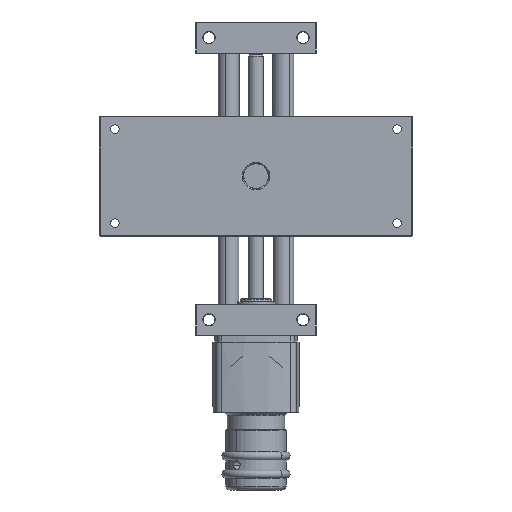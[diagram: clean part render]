
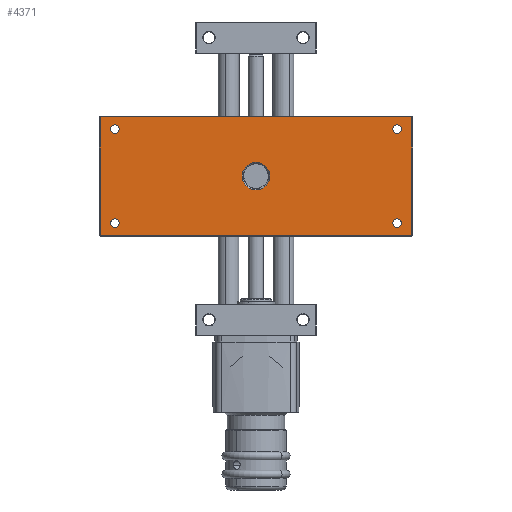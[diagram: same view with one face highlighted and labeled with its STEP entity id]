
A CAD part, front view. The second image highlights one B-rep face of the part: STEP entity #4371.
In plain terms, the highlighted planar face has unit normal (0, -1, 0).
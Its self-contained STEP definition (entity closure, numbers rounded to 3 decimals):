
#111 = VERTEX_POINT ( 'NONE', #5121 ) ;
#539 = AXIS2_PLACEMENT_3D ( 'NONE', #8699, #23527, #10780 ) ;
#660 = DIRECTION ( 'NONE',  ( 0., 0., 1. ) ) ;
#707 = ORIENTED_EDGE ( 'NONE', *, *, #18384, .T. ) ;
#712 = DIRECTION ( 'NONE',  ( 0., 0., 1. ) ) ;
#1249 = VECTOR ( 'NONE', #24285, 1000. ) ;
#1368 = AXIS2_PLACEMENT_3D ( 'NONE', #16115, #3574, #18224 ) ;
#2360 = CARTESIAN_POINT ( 'NONE',  ( 54., -7., -18. ) ) ;
#2435 = DIRECTION ( 'NONE',  ( 0., 0., -1. ) ) ;
#2723 = FACE_BOUND ( 'NONE', #13201, .T. ) ;
#3574 = DIRECTION ( 'NONE',  ( 0., -1., 0. ) ) ;
#3707 = ORIENTED_EDGE ( 'NONE', *, *, #23525, .T. ) ;
#3797 = LINE ( 'NONE', #8482, #15564 ) ;
#3935 = VERTEX_POINT ( 'NONE', #26617 ) ;
#4046 = CARTESIAN_POINT ( 'NONE',  ( 0., -7., 0. ) ) ;
#4056 = ORIENTED_EDGE ( 'NONE', *, *, #22984, .F. ) ;
#4371 = ADVANCED_FACE ( 'NONE', ( #15166, #13842, #2723, #24607, #18753, #13189 ), #20560, .T. ) ;
#4417 = CARTESIAN_POINT ( 'NONE',  ( -54., -7., 18. ) ) ;
#4504 = DIRECTION ( 'NONE',  ( 0., 0., 1. ) ) ;
#4629 = ORIENTED_EDGE ( 'NONE', *, *, #27385, .F. ) ;
#5121 = CARTESIAN_POINT ( 'NONE',  ( 54., -7., -19.65 ) ) ;
#5207 = VERTEX_POINT ( 'NONE', #16261 ) ;
#5421 = CARTESIAN_POINT ( 'NONE',  ( -59.7, -7., 22.7 ) ) ;
#5590 = VERTEX_POINT ( 'NONE', #16351 ) ;
#6034 = DIRECTION ( 'NONE',  ( 0., 1., 0. ) ) ;
#6052 = EDGE_LOOP ( 'NONE', ( #4629, #6401 ) ) ;
#6157 = DIRECTION ( 'NONE',  ( 0., 0., 1. ) ) ;
#6245 = CIRCLE ( 'NONE', #7354, 1.65 ) ;
#6247 = AXIS2_PLACEMENT_3D ( 'NONE', #19792, #7314, #22048 ) ;
#6401 = ORIENTED_EDGE ( 'NONE', *, *, #11163, .F. ) ;
#6527 = DIRECTION ( 'NONE',  ( 0., 0., 1. ) ) ;
#6860 = ORIENTED_EDGE ( 'NONE', *, *, #20209, .F. ) ;
#6876 = LINE ( 'NONE', #26682, #1249 ) ;
#7277 = CARTESIAN_POINT ( 'NONE',  ( 0., -7., 5.3 ) ) ;
#7314 = DIRECTION ( 'NONE',  ( 0., -1., 0. ) ) ;
#7354 = AXIS2_PLACEMENT_3D ( 'NONE', #26134, #13283, #712 ) ;
#7600 = VERTEX_POINT ( 'NONE', #14945 ) ;
#8482 = CARTESIAN_POINT ( 'NONE',  ( 60., -7., -22.7 ) ) ;
#8699 = CARTESIAN_POINT ( 'NONE',  ( 54., -7., 18. ) ) ;
#9034 = CARTESIAN_POINT ( 'NONE',  ( 54., -7., -18. ) ) ;
#9219 = CIRCLE ( 'NONE', #19843, 5.3 ) ;
#9240 = AXIS2_PLACEMENT_3D ( 'NONE', #12267, #27216, #14360 ) ;
#9278 = AXIS2_PLACEMENT_3D ( 'NONE', #9034, #23910, #11122 ) ;
#9377 = EDGE_CURVE ( 'NONE', #21252, #10751, #6876, .T. ) ;
#9860 = CARTESIAN_POINT ( 'NONE',  ( -54., -7., 16.35 ) ) ;
#10426 = CIRCLE ( 'NONE', #9278, 1.65 ) ;
#10650 = CARTESIAN_POINT ( 'NONE',  ( -54., -7., -16.35 ) ) ;
#10751 = VERTEX_POINT ( 'NONE', #5421 ) ;
#10780 = DIRECTION ( 'NONE',  ( 0., 0., 1. ) ) ;
#11122 = DIRECTION ( 'NONE',  ( 0., 0., 1. ) ) ;
#11144 = CARTESIAN_POINT ( 'NONE',  ( 59.7, -7., 23. ) ) ;
#11163 = EDGE_CURVE ( 'NONE', #111, #7600, #10426, .T. ) ;
#11485 = VERTEX_POINT ( 'NONE', #27146 ) ;
#12267 = CARTESIAN_POINT ( 'NONE',  ( -54., -7., -18. ) ) ;
#12878 = EDGE_CURVE ( 'NONE', #26790, #11485, #17490, .T. ) ;
#12917 = EDGE_LOOP ( 'NONE', ( #21145, #6860 ) ) ;
#12961 = CARTESIAN_POINT ( 'NONE',  ( -59.7, -7., -23. ) ) ;
#13189 = FACE_BOUND ( 'NONE', #18995, .T. ) ;
#13201 = EDGE_LOOP ( 'NONE', ( #19120, #19950 ) ) ;
#13283 = DIRECTION ( 'NONE',  ( 0., -1., 0. ) ) ;
#13607 = VECTOR ( 'NONE', #2435, 1000. ) ;
#13842 = FACE_OUTER_BOUND ( 'NONE', #23578, .T. ) ;
#14162 = AXIS2_PLACEMENT_3D ( 'NONE', #20353, #20159, #20139 ) ;
#14360 = DIRECTION ( 'NONE',  ( 0., 0., 1. ) ) ;
#14945 = CARTESIAN_POINT ( 'NONE',  ( 54., -7., -16.35 ) ) ;
#15113 = ORIENTED_EDGE ( 'NONE', *, *, #26058, .F. ) ;
#15166 = FACE_BOUND ( 'NONE', #18152, .T. ) ;
#15348 = CARTESIAN_POINT ( 'NONE',  ( 0., -7., -5.3 ) ) ;
#15564 = VECTOR ( 'NONE', #21036, 1000. ) ;
#15586 = CIRCLE ( 'NONE', #21870, 1.65 ) ;
#15682 = ORIENTED_EDGE ( 'NONE', *, *, #9377, .T. ) ;
#16115 = CARTESIAN_POINT ( 'NONE',  ( -54., -7., -18. ) ) ;
#16261 = CARTESIAN_POINT ( 'NONE',  ( 54., -7., 19.65 ) ) ;
#16351 = CARTESIAN_POINT ( 'NONE',  ( -54., -7., 19.65 ) ) ;
#16521 = VERTEX_POINT ( 'NONE', #15348 ) ;
#16787 = VERTEX_POINT ( 'NONE', #9860 ) ;
#17007 = DIRECTION ( 'NONE',  ( 0., -1., 0. ) ) ;
#17490 = CIRCLE ( 'NONE', #1368, 1.65 ) ;
#17550 = CIRCLE ( 'NONE', #21401, 5.3 ) ;
#17641 = AXIS2_PLACEMENT_3D ( 'NONE', #2360, #17007, #4504 ) ;
#18105 = EDGE_CURVE ( 'NONE', #26800, #21252, #25724, .T. ) ;
#18152 = EDGE_LOOP ( 'NONE', ( #25566, #707 ) ) ;
#18175 = ORIENTED_EDGE ( 'NONE', *, *, #23025, .T. ) ;
#18224 = DIRECTION ( 'NONE',  ( 0., 0., 1. ) ) ;
#18289 = CIRCLE ( 'NONE', #9240, 1.65 ) ;
#18384 = EDGE_CURVE ( 'NONE', #16521, #18662, #17550, .T. ) ;
#18522 = CARTESIAN_POINT ( 'NONE',  ( 0., -7., 0. ) ) ;
#18649 = DIRECTION ( 'NONE',  ( 0., 1., 0. ) ) ;
#18662 = VERTEX_POINT ( 'NONE', #7277 ) ;
#18753 = FACE_BOUND ( 'NONE', #6052, .T. ) ;
#18995 = EDGE_LOOP ( 'NONE', ( #4056, #15113 ) ) ;
#19008 = DIRECTION ( 'NONE',  ( 0., -1., 0. ) ) ;
#19120 = ORIENTED_EDGE ( 'NONE', *, *, #12878, .F. ) ;
#19156 = LINE ( 'NONE', #12961, #13607 ) ;
#19386 = CARTESIAN_POINT ( 'NONE',  ( -59.7, -7., -22.7 ) ) ;
#19792 = CARTESIAN_POINT ( 'NONE',  ( 54., -7., 18. ) ) ;
#19843 = AXIS2_PLACEMENT_3D ( 'NONE', #4046, #18649, #6157 ) ;
#19880 = CIRCLE ( 'NONE', #17641, 1.65 ) ;
#19950 = ORIENTED_EDGE ( 'NONE', *, *, #27214, .F. ) ;
#20139 = DIRECTION ( 'NONE',  ( 0., 0., 1. ) ) ;
#20159 = DIRECTION ( 'NONE',  ( 0., -1., 0. ) ) ;
#20209 = EDGE_CURVE ( 'NONE', #16787, #5590, #6245, .T. ) ;
#20353 = CARTESIAN_POINT ( 'NONE',  ( -60., -7., 23. ) ) ;
#20560 = PLANE ( 'NONE',  #14162 ) ;
#20668 = DIRECTION ( 'NONE',  ( 0., 0., 1. ) ) ;
#21036 = DIRECTION ( 'NONE',  ( 1., 0., 0. ) ) ;
#21145 = ORIENTED_EDGE ( 'NONE', *, *, #22412, .F. ) ;
#21252 = VERTEX_POINT ( 'NONE', #23042 ) ;
#21401 = AXIS2_PLACEMENT_3D ( 'NONE', #18522, #6034, #20668 ) ;
#21870 = AXIS2_PLACEMENT_3D ( 'NONE', #4417, #19008, #6527 ) ;
#22010 = VERTEX_POINT ( 'NONE', #19386 ) ;
#22048 = DIRECTION ( 'NONE',  ( 0., 0., 1. ) ) ;
#22412 = EDGE_CURVE ( 'NONE', #5590, #16787, #15586, .T. ) ;
#22984 = EDGE_CURVE ( 'NONE', #5207, #3935, #26373, .T. ) ;
#23025 = EDGE_CURVE ( 'NONE', #10751, #22010, #19156, .T. ) ;
#23042 = CARTESIAN_POINT ( 'NONE',  ( 59.7, -7., 22.7 ) ) ;
#23484 = CARTESIAN_POINT ( 'NONE',  ( 59.7, -7., -22.7 ) ) ;
#23525 = EDGE_CURVE ( 'NONE', #22010, #26800, #3797, .T. ) ;
#23527 = DIRECTION ( 'NONE',  ( 0., -1., 0. ) ) ;
#23578 = EDGE_LOOP ( 'NONE', ( #25670, #15682, #18175, #3707 ) ) ;
#23910 = DIRECTION ( 'NONE',  ( 0., -1., 0. ) ) ;
#24285 = DIRECTION ( 'NONE',  ( -1., 0., 0. ) ) ;
#24392 = VECTOR ( 'NONE', #660, 1000. ) ;
#24516 = CIRCLE ( 'NONE', #6247, 1.65 ) ;
#24607 = FACE_BOUND ( 'NONE', #12917, .T. ) ;
#25566 = ORIENTED_EDGE ( 'NONE', *, *, #25693, .T. ) ;
#25670 = ORIENTED_EDGE ( 'NONE', *, *, #18105, .T. ) ;
#25693 = EDGE_CURVE ( 'NONE', #18662, #16521, #9219, .T. ) ;
#25724 = LINE ( 'NONE', #11144, #24392 ) ;
#26058 = EDGE_CURVE ( 'NONE', #3935, #5207, #24516, .T. ) ;
#26134 = CARTESIAN_POINT ( 'NONE',  ( -54., -7., 18. ) ) ;
#26373 = CIRCLE ( 'NONE', #539, 1.65 ) ;
#26617 = CARTESIAN_POINT ( 'NONE',  ( 54., -7., 16.35 ) ) ;
#26682 = CARTESIAN_POINT ( 'NONE',  ( -60., -7., 22.7 ) ) ;
#26790 = VERTEX_POINT ( 'NONE', #10650 ) ;
#26800 = VERTEX_POINT ( 'NONE', #23484 ) ;
#27146 = CARTESIAN_POINT ( 'NONE',  ( -54., -7., -19.65 ) ) ;
#27214 = EDGE_CURVE ( 'NONE', #11485, #26790, #18289, .T. ) ;
#27216 = DIRECTION ( 'NONE',  ( 0., -1., 0. ) ) ;
#27385 = EDGE_CURVE ( 'NONE', #7600, #111, #19880, .T. ) ;
